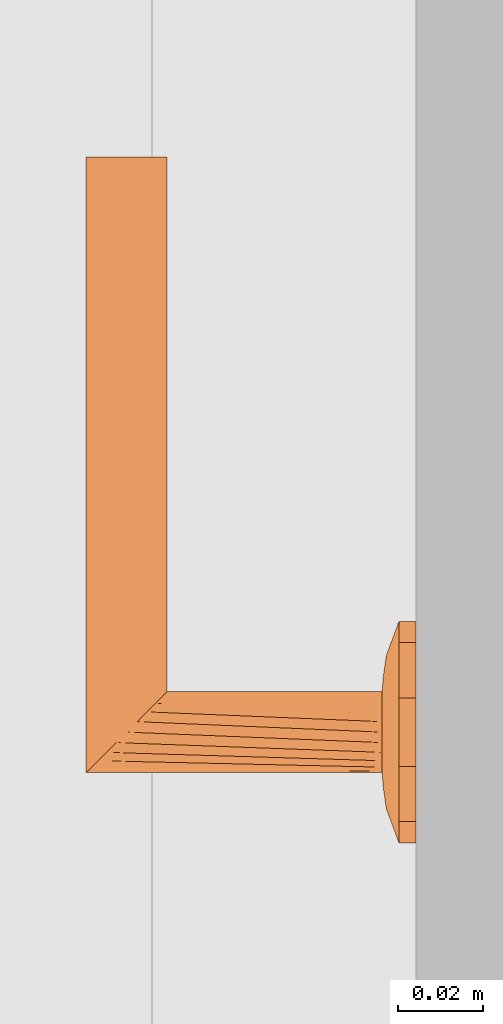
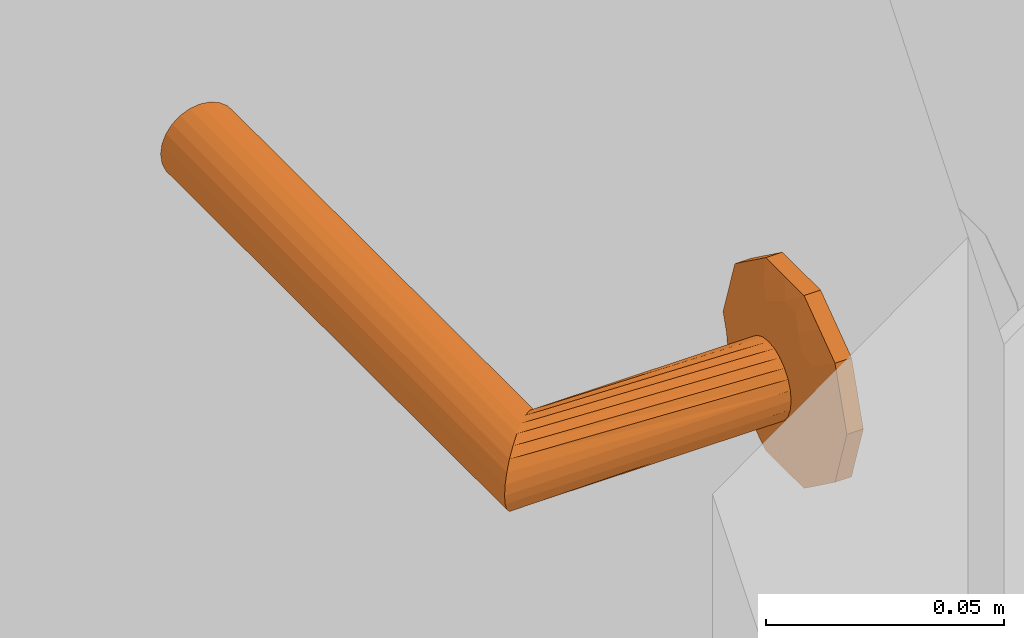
# One storey, part 41 of 68: 1 proxy.
"""IFC2X3 building model written with IfcOpenShell, lengths in millimetres."""

from ifc_helpers import new_model, entity, si_unit, converted_unit, direction, frame, origin, place, context, subcontext, project, spatial, faceted_brep, source, transform, mapped, material, type_object, type_shapes, element, save


model = new_model("IFC2X3")

# Units and contexts
model_context = context("Model", 3, precision=0.01, world=origin(), true_north=direction((6.123233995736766e-17, 1.0)))
plan_context = context("Plan", 3, precision=0.01, world=origin(), true_north=direction((6.123233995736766e-17, 1.0)))
body_context = subcontext(model_context, "Body", "Model", "MODEL_VIEW")
ifc_project = project(units=[si_unit("LENGTHUNIT", "METRE", prefix="MILLI"), converted_unit("PLANEANGLEUNIT", "DEGREE", entity("IfcPlaneAngleMeasure", 0.017453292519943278), si_unit("PLANEANGLEUNIT", "RADIAN"), dimensions=[0, 0, 0, 0, 0, 0, 0]), si_unit("AREAUNIT", "SQUARE_METRE")], contexts=[model_context, plan_context])

# Site, building, storey
site_placement = place(None, origin())
site = spatial("IfcSite", under=ifc_project, at=site_placement, Name="Default", CompositionType="ELEMENT")
building_placement = place(site_placement, origin())
building = spatial("IfcBuilding", under=site, at=building_placement, CompositionType="ELEMENT")
storey_placement = place(building_placement, frame((0.0, 0.0, 6295.0)))
storey = spatial("IfcBuildingStorey", under=building, at=storey_placement, Name="3K", CompositionType="ELEMENT", Elevation=6294.999999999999)

# Proxy
ifc_material = material(Name="<Unnamed>")
building_element_proxy_type = type_object("IfcBuildingElementProxyType", Name="Door-handle_Lever_ABLOY_INOXI_3-19ss-002_RT:Default", PredefinedType="NOTDEFINED", material=ifc_material)
shared_shape = source(origin(), body_context, "Body", "Brep", [
    faceted_brep([(0.0, 0.0, 0.0), (21.034441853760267, -15.282416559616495, 0.0), (14.534441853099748, -20.00494299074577, 0.0), (8.034441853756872, -24.72746942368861, 0.0), (0.0, -24.72746942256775, 0.0), (23.51722092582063, -7.6412082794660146, 0.0), (26.0, 0.0, 0.0), (-8.034441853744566, -24.727469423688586, 0.0), (-14.534441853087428, -20.00494299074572, 0.0), (-21.03444185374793, -15.282416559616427, 0.0), (-23.517220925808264, -7.641208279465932, 0.0), (-26.0, 0.0, 0.0), (-23.517220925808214, 7.641208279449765, 0.0), (23.517220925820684, 7.641208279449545, 0.0), (21.034441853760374, 15.282416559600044, 0.0), (14.53444185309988, 20.00494299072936, 0.0), (8.034441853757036, 24.72746942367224, 0.0), (-21.034441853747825, 15.282416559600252, 0.0), (-14.53444185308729, 20.004942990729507, 0.0), (-8.0344418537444, 24.72746942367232, 0.0), (0.0, 24.72746942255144, 0.0), (0.0, 0.0, 8.0), (4.7500000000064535, -8.227241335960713, 8.0), (5.937500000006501, -6.170431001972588, 8.0), (7.125000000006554, -4.113620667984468, 8.0), (8.312500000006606, -2.0568103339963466, 8.0), (9.500000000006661, 0.0, 8.0), (8.312500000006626, 2.056810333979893, 8.0), (2.3750000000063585, -8.227241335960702, 8.0), (0.0, -8.227241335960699, 8.0), (-2.3749999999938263, -8.227241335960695, 8.0), (-4.749999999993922, -8.227241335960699, 8.0), (-5.937499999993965, -6.170431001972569, 8.0), (-7.124999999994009, -4.113620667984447, 8.0), (-8.312499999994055, -2.056810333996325, 8.0), (-9.499999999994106, 0.0, 8.0), (7.125000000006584, 4.113620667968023, 8.0), (5.937500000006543, 6.170431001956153, 8.0), (4.750000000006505, 8.227241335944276, 8.0), (2.3750000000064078, 8.22724133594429, 8.0), (-8.31249999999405, 2.0568103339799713, 8.0), (-7.12499999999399, 4.113620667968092, 8.0), (-5.9374999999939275, 6.170431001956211, 8.0), (-4.74999999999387, 8.227241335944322, 8.0), (0.0, 8.227241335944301, 8.0), (-2.374999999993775, 8.227241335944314, 8.0), (-22.488765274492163, -10.806469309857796, 4.030771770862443), (-16.663919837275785, -7.932665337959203, 6.877259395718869), (-20.643071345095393, -6.292822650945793, 5.929480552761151), (-12.50457926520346, -5.179566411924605, 7.774932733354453), (-16.764060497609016, -3.820257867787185, 7.1747985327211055), (-9.071726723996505, -10.311606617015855, 7.7520782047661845), (-11.963426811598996, -8.625290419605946, 7.618343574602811), (-11.979136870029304, -13.678312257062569, 6.945778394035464), (5.7585542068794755, -20.96753300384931, 5.871476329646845), (0.0, -24.72746942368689, 4.030771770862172), (8.03444185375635, -24.727469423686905, 4.030771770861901), (16.66391982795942, -7.932665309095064, 6.877259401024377), (22.488765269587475, -10.806469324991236, 4.03077177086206), (20.64307133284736, -6.29282258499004, 5.929480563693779), (14.534441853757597, -20.004942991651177, 4.030771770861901), (9.499431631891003, -18.64368355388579, 6.154325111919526), (-15.783149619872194, -11.991003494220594, 6.50080018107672), (-21.034441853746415, -15.282416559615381, 4.030771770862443), (-14.53444185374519, -20.00494299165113, 4.030771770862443), (-23.012042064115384, 0.0, 5.135401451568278), (-23.943088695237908, -6.330522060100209, 4.030771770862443), (11.96342678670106, -8.62529049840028, 7.618343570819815), (12.504579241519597, -5.179566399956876, 7.774932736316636), (16.764060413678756, -3.8202578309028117, 7.17479855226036), (15.783149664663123, -11.991003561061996, 6.50080015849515), (17.985351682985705, 0.0, 6.993737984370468), (23.012042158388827, 0.0, 5.135401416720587), (8.661516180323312, -10.478936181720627, 7.768126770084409), (-8.03444185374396, -24.727469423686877, 4.030771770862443), (-3.3573143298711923, -21.197247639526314, 5.971427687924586), (-9.941915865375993, -17.061976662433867, 6.522757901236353), (-5.973257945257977, -16.430139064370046, 7.110979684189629), (-7.711266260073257, -12.760344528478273, 7.594456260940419), (11.979136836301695, -13.678312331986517, 6.945778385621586), (7.511307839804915, -13.358932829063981, 7.529187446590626), (5.953298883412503, -16.50608604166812, 7.096344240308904), (-1.5654593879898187, -15.307443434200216, 7.519134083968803), (-7.784980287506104, -20.476295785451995, 5.812837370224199), (2.8135289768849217, -17.76392260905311, 6.993737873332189), (-17.98535168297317, 0.0, 6.993737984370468), (-26.0, 0.0, 4.030771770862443), (-23.51722092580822, -7.641208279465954, 4.030771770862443), (23.943088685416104, -6.33052209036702, 4.030771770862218), (24.308823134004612, -5.204907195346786, 4.030771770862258), (26.0, 0.0, 4.030771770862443), (21.03444185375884, -15.282416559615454, 4.030771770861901), (22.617646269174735, -10.40981439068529, 4.030771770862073), (22.488765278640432, 10.806469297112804, 4.030771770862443), (16.66391984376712, 7.932665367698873, 6.877259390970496), (20.643071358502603, 6.292822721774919, 5.929480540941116), (12.504579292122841, 5.179566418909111, 7.774932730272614), (16.764060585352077, 3.8202579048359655, 7.174798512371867), (9.07172672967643, 10.31160659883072, 7.752078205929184), (11.963426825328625, 8.62529034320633, 7.618343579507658), (11.979136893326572, 13.67831220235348, 6.9457784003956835), (-5.758554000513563, 20.96753314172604, 5.8714763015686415), (0.0, 24.72746942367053, 4.030771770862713), (-8.03444185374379, 24.72746942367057, 4.030771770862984), (-16.663919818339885, 7.932665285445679, 6.877259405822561), (-22.48876526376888, 10.806469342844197, 4.030771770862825), (-20.643071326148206, 6.2928225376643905, 5.929480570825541), (-14.534441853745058, 20.004942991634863, 4.030771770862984), (-9.499431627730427, 18.643683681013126, 6.154325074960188), (15.783149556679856, 11.991003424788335, 6.5008002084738), (21.03444185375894, 15.282416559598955, 4.030771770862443), (14.534441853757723, 20.004942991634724, 4.030771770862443), (23.943088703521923, 6.330522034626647, 4.030771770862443), (-11.96342675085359, 8.625290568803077, 7.618343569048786), (-12.504579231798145, 5.179566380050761, 7.77493273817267), (-16.764060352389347, 3.820257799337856, 7.174798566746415), (-15.78314967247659, 11.991003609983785, 6.500800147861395), (-8.661516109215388, 10.478936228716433, 7.768126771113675), (8.034441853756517, 24.727469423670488, 4.030771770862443), (3.3573144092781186, 21.197247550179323, 5.971427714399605), (9.941915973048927, 17.061976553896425, 6.522757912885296), (5.9732581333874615, 16.430139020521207, 7.110979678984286), (7.711266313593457, 12.760344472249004, 7.5944562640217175), (-11.979136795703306, 13.678312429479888, 6.945778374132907), (-7.511307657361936, 13.358932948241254, 7.5291874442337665), (-5.9532988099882, 16.50608628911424, 7.096344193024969), (1.5654596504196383, 15.3074431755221, 7.519134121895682), (7.784980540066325, 20.476295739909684, 5.812837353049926), (-2.81352881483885, 17.76392263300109, 6.993737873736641), (23.51722092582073, 7.6412082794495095, 4.030771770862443), (-23.94308867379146, 6.330522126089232, 4.030771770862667), (-24.308823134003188, 5.20490719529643, 4.030771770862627), (-21.034441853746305, 15.282416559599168, 4.030771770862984), (-22.617646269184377, 10.409814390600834, 4.0307717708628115)], [[[0, 1, 2]], [[0, 2, 3]], [[0, 3, 4]], [[0, 5, 1]], [[0, 6, 5]], [[0, 4, 7]], [[0, 7, 8]], [[0, 8, 9]], [[0, 9, 10]], [[0, 10, 11]], [[0, 11, 12]], [[0, 13, 6]], [[0, 14, 13]], [[0, 15, 14]], [[0, 16, 15]], [[0, 12, 17]], [[0, 17, 18]], [[0, 18, 19]], [[0, 19, 20]], [[0, 20, 16]], [[21, 22, 23]], [[21, 23, 24]], [[21, 24, 25]], [[21, 25, 26]], [[21, 26, 27]], [[21, 28, 22]], [[21, 29, 28]], [[21, 30, 29]], [[21, 31, 30]], [[21, 32, 31]], [[21, 33, 32]], [[21, 34, 33]], [[21, 35, 34]], [[21, 27, 36]], [[21, 36, 37]], [[21, 37, 38]], [[21, 38, 39]], [[21, 40, 35]], [[21, 41, 40]], [[21, 42, 41]], [[21, 43, 42]], [[21, 39, 44]], [[21, 44, 45]], [[21, 45, 43]], [[46, 47, 48]], [[47, 49, 50]], [[49, 33, 34]], [[51, 52, 53]], [[49, 52, 33]], [[48, 47, 50]], [[54, 55, 56]], [[57, 58, 59]], [[56, 60, 61]], [[62, 63, 64]], [[65, 66, 48]], [[67, 57, 68]], [[68, 69, 25]], [[57, 67, 70]], [[69, 26, 25]], [[62, 53, 52]], [[71, 69, 72]], [[67, 23, 73]], [[74, 55, 75]], [[76, 77, 78]], [[79, 60, 70]], [[69, 59, 72]], [[80, 81, 61]], [[77, 30, 78]], [[82, 30, 77]], [[28, 80, 22]], [[77, 83, 75]], [[75, 82, 77]], [[55, 84, 75]], [[85, 50, 35]], [[24, 68, 25]], [[82, 84, 29]], [[84, 82, 75]], [[31, 78, 30]], [[82, 29, 30]], [[34, 35, 50]], [[52, 49, 47]], [[62, 52, 47]], [[34, 50, 49]], [[53, 78, 51]], [[32, 33, 52]], [[85, 65, 50]], [[66, 65, 86]], [[67, 68, 24]], [[77, 76, 83]], [[65, 48, 50]], [[63, 62, 46]], [[48, 66, 87, 46]], [[62, 47, 46]], [[69, 68, 57]], [[80, 73, 22]], [[70, 67, 79]], [[67, 24, 23]], [[72, 88, 89, 90]], [[69, 71, 26]], [[59, 69, 57]], [[61, 60, 79]], [[62, 64, 53]], [[91, 58, 70]], [[72, 59, 88]], [[57, 70, 58]], [[59, 58, 92]], [[80, 61, 79]], [[91, 70, 60]], [[61, 81, 54]], [[73, 80, 79]], [[28, 84, 81]], [[67, 73, 79]], [[29, 84, 28]], [[22, 73, 23]], [[51, 31, 32]], [[76, 78, 53]], [[53, 64, 76]], [[83, 64, 74]], [[64, 83, 76]], [[75, 83, 74]], [[31, 51, 78]], [[52, 51, 32]], [[28, 81, 80]], [[54, 81, 84]], [[55, 54, 84]], [[61, 54, 56]], [[93, 94, 95]], [[94, 96, 97]], [[96, 36, 27]], [[98, 99, 100]], [[96, 99, 36]], [[95, 94, 97]], [[101, 102, 103]], [[104, 105, 106]], [[103, 107, 108]], [[109, 110, 111]], [[72, 112, 95]], [[113, 104, 114]], [[114, 115, 40]], [[104, 113, 116]], [[115, 35, 40]], [[109, 100, 99]], [[85, 115, 65]], [[113, 42, 117]], [[118, 102, 119]], [[120, 121, 122]], [[123, 107, 116]], [[115, 106, 65]], [[124, 125, 108]], [[121, 39, 122]], [[126, 39, 121]], [[45, 124, 43]], [[121, 127, 119]], [[119, 126, 121]], [[102, 128, 119]], [[71, 97, 26]], [[41, 114, 40]], [[126, 128, 44]], [[128, 126, 119]], [[38, 122, 39]], [[126, 44, 39]], [[27, 26, 97]], [[99, 96, 94]], [[109, 99, 94]], [[27, 97, 96]], [[100, 122, 98]], [[37, 36, 99]], [[71, 72, 97]], [[112, 72, 90]], [[113, 114, 41]], [[121, 120, 127]], [[72, 95, 97]], [[110, 109, 93]], [[95, 112, 129, 93]], [[109, 94, 93]], [[115, 114, 104]], [[124, 117, 43]], [[116, 113, 123]], [[113, 41, 42]], [[65, 130, 131, 86]], [[115, 85, 35]], [[106, 115, 104]], [[108, 107, 123]], [[109, 111, 100]], [[132, 105, 116]], [[65, 106, 130]], [[104, 116, 105]], [[106, 105, 133]], [[124, 108, 123]], [[132, 116, 107]], [[108, 125, 101]], [[117, 124, 123]], [[45, 128, 125]], [[113, 117, 123]], [[44, 128, 45]], [[43, 117, 42]], [[98, 38, 37]], [[120, 122, 100]], [[100, 111, 120]], [[127, 111, 118]], [[111, 127, 120]], [[119, 127, 118]], [[38, 98, 122]], [[99, 98, 37]], [[45, 125, 124]], [[101, 125, 128]], [[102, 101, 128]], [[108, 101, 103]], [[7, 74, 64, 63, 9, 8]], [[10, 9, 63, 46, 87, 66, 86, 11]], [[6, 90, 89, 88, 92, 1, 5]], [[1, 58, 91]], [[74, 7, 4, 3, 56, 55]], [[60, 56, 3, 2, 1, 91]], [[1, 92, 58]], [[14, 110, 93, 129, 112, 90, 6, 13]], [[111, 110, 14, 15, 16, 118]], [[11, 86, 131, 130, 133, 17, 12]], [[17, 105, 132]], [[118, 16, 20, 19, 103, 102]], [[107, 103, 19, 18, 17, 132]], [[17, 133, 105]], [[59, 92, 88]], [[106, 133, 130]]]),
    faceted_brep([(4.7499999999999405, -8.22724133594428, 8.0), (2.4587809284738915, -9.176295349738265, 8.0), (0.0, -9.499999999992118, 8.0), (-2.4587809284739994, -9.176295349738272, 8.0), (-4.7500000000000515, -8.227241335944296, 8.0), (-6.717514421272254, -6.717514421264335, 8.0), (-8.227241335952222, -4.74999999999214, 8.0), (-9.176295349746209, -2.4587809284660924, 8.0), (-9.500000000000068, 0.0, 8.0), (-9.176295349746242, 2.458780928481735, 8.0), (-8.227241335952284, 4.750000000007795, 8.0), (-6.717514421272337, 6.717514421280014, 8.0), (-4.750000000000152, 8.227241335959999, 8.0), (-2.4587809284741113, 9.176295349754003, 8.0), (0.0, 9.500000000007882, 8.0), (2.4587809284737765, 9.176295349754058, 8.0), (4.7499999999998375, 8.227241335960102, 8.0), (6.717514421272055, 6.717514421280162, 8.0), (8.22724133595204, 4.75000000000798, 8.0), (9.17629534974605, 2.458780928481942, 8.0), (9.499999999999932, 0.0, 8.0), (9.17629534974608, -2.458780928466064, 8.0), (8.227241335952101, -4.749999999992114, 8.0), (6.717514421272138, -6.7175144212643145, 8.0), (-8.227241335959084, 4.7499999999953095, 59.772758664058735), (-6.717514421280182, 6.7175144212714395, 61.282485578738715), (-9.176295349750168, 2.458780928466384, 58.82370465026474), (-4.750000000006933, 8.227241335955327, 63.25000000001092), (-2.4587809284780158, 9.176295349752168, 65.54121907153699), (-9.500000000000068, 0.0, 58.50000000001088), (0.0, 9.50000000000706, 68.0), (4.750000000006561, 8.227241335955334, 72.75000000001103), (2.4587809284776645, 9.17629534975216, 70.45878092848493), (6.717514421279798, 6.7175144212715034, 74.71751442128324), (8.22724133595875, 4.749999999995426, 76.22724133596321), (9.17629534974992, 2.458780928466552, 77.17629534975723), (9.499999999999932, 0.0, 77.50000000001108), (9.176295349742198, -2.4587809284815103, 77.1762953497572), (8.227241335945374, -4.750000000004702, 76.22724133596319), (6.7175144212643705, -6.717514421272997, 74.7175144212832), (4.749999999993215, -8.227241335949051, 72.75000000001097), (2.4587809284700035, -9.17629534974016, 70.45878092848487), (0.0, -9.49999999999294, 68.0), (-2.4587809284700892, -9.176295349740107, 65.54121907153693), (-4.749999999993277, -8.227241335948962, 63.250000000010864), (-6.717514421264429, -6.717514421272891, 61.282485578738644), (-9.176295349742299, -2.458780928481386, 58.8237046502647), (-8.227241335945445, -4.750000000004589, 59.77275866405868), (-135.0, -9.176295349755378, 70.4587809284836), (-135.0, -8.227241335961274, 72.75000000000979), (-135.0, -6.717514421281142, 74.71751442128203), (-135.0, -4.750000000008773, 76.22724133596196), (-135.0, -2.4587809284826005, 77.17629534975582), (-135.0, 0.0, 77.5000000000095), (-135.0, 2.4587809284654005, 77.17629534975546), (-135.0, 4.749999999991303, 76.22724133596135), (-135.0, 6.717514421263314, 74.71751442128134), (-135.0, 8.227241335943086, 72.75000000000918), (-135.0, 9.17629534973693, 70.45878092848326), (-135.0, 9.499999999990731, 68.0), (-135.0, 9.17629534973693, 65.54121907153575), (-135.0, 8.227241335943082, 63.250000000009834), (-135.0, 6.717514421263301, 61.28248557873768), (-135.0, 4.749999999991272, 59.772758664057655), (-135.0, 2.458780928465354, 58.823704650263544), (-135.0, 0.0, 58.50000000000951), (-135.0, -2.458780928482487, 58.82370465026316), (-135.0, -4.750000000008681, 59.772758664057), (-135.0, -6.7175144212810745, 61.28248557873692), (-135.0, -8.227241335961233, 63.25000000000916), (-135.0, -9.176295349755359, 65.54121907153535), (-135.0, -9.500000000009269, 68.0)], [[[0, 1, 2, 3, 4, 5, 6, 7, 8, 9, 10, 11, 12, 13, 14, 15, 16, 17, 18, 19, 20, 21, 22, 23]], [[24, 25, 11, 10]], [[26, 24, 10, 9]], [[14, 27, 28]], [[13, 27, 14]], [[25, 27, 13]], [[29, 26, 9, 8]], [[12, 11, 25]], [[25, 13, 12]], [[28, 30, 15]], [[31, 17, 32]], [[33, 18, 31]], [[19, 34, 35]], [[33, 34, 19]], [[20, 19, 35, 36]], [[16, 15, 30]], [[14, 28, 15]], [[19, 18, 33]], [[17, 31, 18]], [[17, 16, 32]], [[30, 32, 16]], [[20, 36, 37, 21]], [[38, 21, 37]], [[22, 39, 40]], [[38, 39, 21]], [[23, 40, 41]], [[39, 22, 21]], [[1, 42, 43]], [[42, 1, 0]], [[23, 41, 0]], [[23, 22, 40]], [[41, 42, 0]], [[44, 45, 3]], [[43, 44, 2]], [[46, 29, 8, 7]], [[47, 46, 7, 6]], [[45, 47, 6, 5]], [[45, 4, 3]], [[3, 2, 44]], [[5, 4, 45]], [[43, 2, 1]], [[48, 49, 50, 51, 52, 53, 54, 55, 56, 57, 58, 59, 60, 61, 62, 63, 64, 65, 66, 67, 68, 69, 70, 71]], [[64, 63, 24, 26]], [[65, 64, 26, 29]], [[61, 60, 28, 27]], [[62, 61, 27, 25]], [[63, 62, 25, 24]], [[59, 30, 28, 60]], [[57, 56, 33, 31]], [[58, 57, 31, 32]], [[54, 53, 36, 35]], [[55, 54, 35, 34]], [[56, 55, 34, 33]], [[32, 30, 59, 58]], [[52, 51, 38, 37]], [[53, 52, 37, 36]], [[49, 48, 41, 40]], [[50, 49, 40, 39]], [[51, 50, 39, 38]], [[42, 41, 48, 71]], [[69, 68, 45, 44]], [[70, 69, 44, 43]], [[66, 65, 29, 46]], [[67, 66, 46, 47]], [[68, 67, 47, 45]], [[42, 71, 70, 43]]]),
])
type_shapes(building_element_proxy_type, [shared_shape])
proxy_placement = place(storey_placement, frame((3314.9935349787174, 6864.9999797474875, 1000.0), z_axis=(-1.0, 0.0, 0.0), x_axis=(0.0, -1.0, 0.0)))
element("IfcBuildingElementProxy", 1, at=proxy_placement, inside=storey, type_object=building_element_proxy_type, material=ifc_material, Name="Door-handle_Lever_ABLOY_INOXI_3-19ss-002_RT:Default", ObjectType="Door-handle_Lever_ABLOY_INOXI_3-19ss-002_RT:Default", context=body_context, shape_type="MappedRepresentation", body=[
    mapped(shared_shape, transform((0.0, 0.0, 0.0), scale=1.0)),
])

save(model, "model.ifc")
